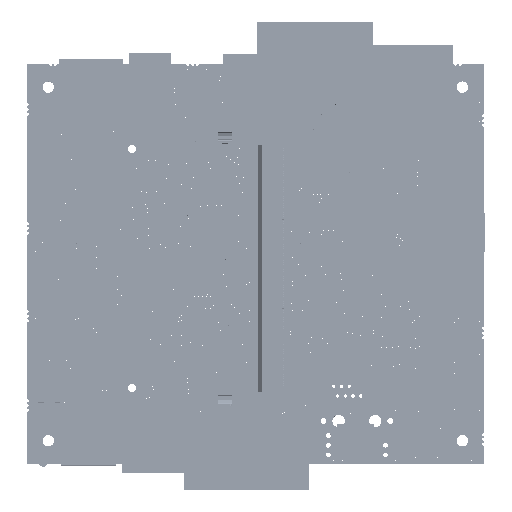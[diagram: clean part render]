
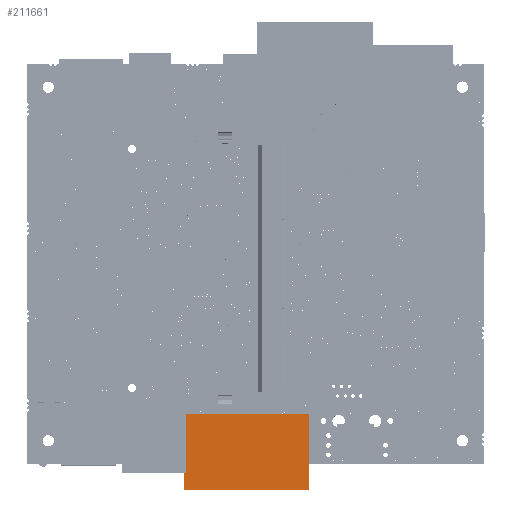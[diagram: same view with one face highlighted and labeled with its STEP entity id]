
A CAD part, top view. The second image highlights one B-rep face of the part: STEP entity #211661.
In plain terms, the highlighted planar face has unit normal (0, 0, 1).
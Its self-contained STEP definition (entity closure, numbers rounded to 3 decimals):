
#63460 = FACE_OUTER_BOUND ( 'NONE', #218398, .T. ) ;
#68454 = EDGE_CURVE ( 'NONE', #217206, #217205, #106719, .T. ) ;
#68535 = EDGE_CURVE ( 'NONE', #217205, #217208, #106795, .T. ) ;
#68544 = EDGE_CURVE ( 'NONE', #217208, #217210, #106808, .T. ) ;
#68550 = EDGE_CURVE ( 'NONE', #217210, #217206, #106815, .T. ) ;
#73601 = AXIS2_PLACEMENT_3D ( 'NONE', #80728, #80730, #80731 ) ;
#80727 = PLANE ( 'NONE',  #73601 ) ;
#80728 = CARTESIAN_POINT ( 'NONE',  ( 41.362, 13.069, 14.315 ) ) ;
#80730 = DIRECTION ( 'NONE',  ( 0., 0., 1. ) ) ;
#80731 = DIRECTION ( 'NONE',  ( 1., 0., 0. ) ) ;
#99271 = CARTESIAN_POINT ( 'NONE',  ( 41.362, 13.069, 14.315 ) ) ;
#99274 = CARTESIAN_POINT ( 'NONE',  ( 74.162, 13.069, 14.315 ) ) ;
#99278 = CARTESIAN_POINT ( 'NONE',  ( 41.362, -6.931, 14.315 ) ) ;
#99283 = CARTESIAN_POINT ( 'NONE',  ( 74.162, -6.931, 14.315 ) ) ;
#106719 = LINE ( 'NONE', #110836, #111970 ) ;
#106795 = LINE ( 'NONE', #111042, #112007 ) ;
#106808 = LINE ( 'NONE', #111062, #112012 ) ;
#106815 = LINE ( 'NONE', #111078, #112016 ) ;
#110836 = CARTESIAN_POINT ( 'NONE',  ( 74.162, 13.069, 14.315 ) ) ;
#110838 = DIRECTION ( 'NONE',  ( -1., 0., 0. ) ) ;
#111042 = CARTESIAN_POINT ( 'NONE',  ( 41.362, 13.069, 14.315 ) ) ;
#111044 = DIRECTION ( 'NONE',  ( 0., -1., 0. ) ) ;
#111062 = CARTESIAN_POINT ( 'NONE',  ( 41.362, -6.931, 14.315 ) ) ;
#111064 = DIRECTION ( 'NONE',  ( 1., 0., 0. ) ) ;
#111078 = CARTESIAN_POINT ( 'NONE',  ( 74.162, -6.931, 14.315 ) ) ;
#111080 = DIRECTION ( 'NONE',  ( 0., 1., 0. ) ) ;
#111970 = VECTOR ( 'NONE', #110838, 1000. ) ;
#112007 = VECTOR ( 'NONE', #111044, 1000. ) ;
#112012 = VECTOR ( 'NONE', #111064, 1000. ) ;
#112016 = VECTOR ( 'NONE', #111080, 1000. ) ;
#211661 = ADVANCED_FACE ( 'NONE', ( #63460 ), #80727, .T. ) ;
#217205 = VERTEX_POINT ( 'NONE', #99271 ) ;
#217206 = VERTEX_POINT ( 'NONE', #99274 ) ;
#217208 = VERTEX_POINT ( 'NONE', #99278 ) ;
#217210 = VERTEX_POINT ( 'NONE', #99283 ) ;
#218398 = EDGE_LOOP ( 'NONE', ( #279082, #279083, #279084, #279080 ) ) ;
#279080 = ORIENTED_EDGE ( 'NONE', *, *, #68550, .T. ) ;
#279082 = ORIENTED_EDGE ( 'NONE', *, *, #68454, .T. ) ;
#279083 = ORIENTED_EDGE ( 'NONE', *, *, #68535, .T. ) ;
#279084 = ORIENTED_EDGE ( 'NONE', *, *, #68544, .T. ) ;
